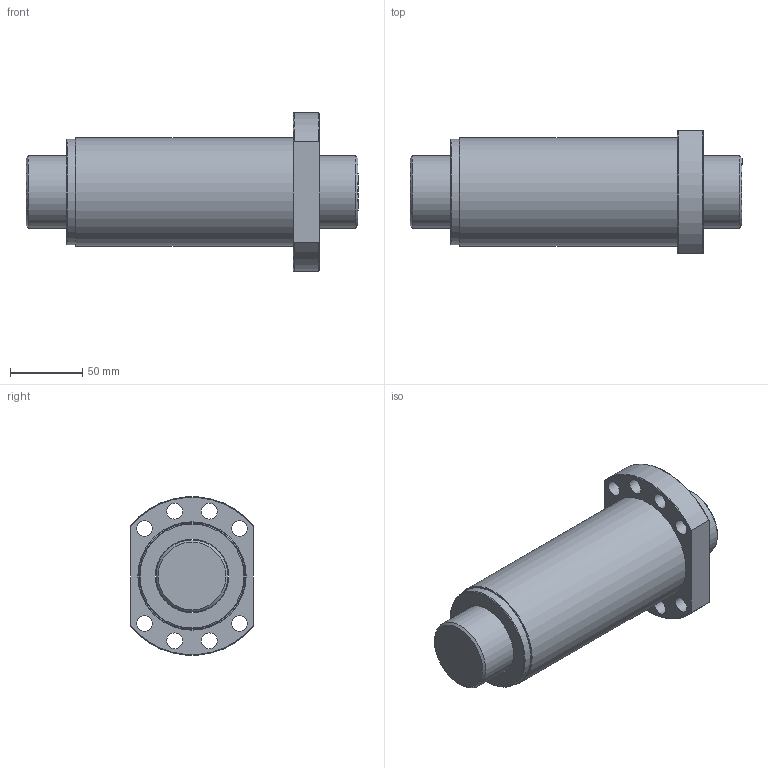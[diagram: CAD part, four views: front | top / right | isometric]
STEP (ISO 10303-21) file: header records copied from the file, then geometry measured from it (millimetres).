
FILE_DESCRIPTION(/* description */ (''),/* implementation_level */ '2;1');
FILE_NAME(/* name */ 'SFS5050-2.8',/* time_stamp */ '2007-10-26T13:03:20+08:00',/* author */ (''),/* organization */ (''),/* preprocessor_version */ 'ST-DEVELOPER v9',/* originating_system */ 'UGS - NX 3.0',/* authorisation */ '');
FILE_SCHEMA (('CONFIG_CONTROL_DESIGN'));
Length unit declared in the file: millimetre
Products named in the file (1): jaso15A4i312
Bounding box: 230 x 85 x 109.65 mm (x, y, z)
Volume: 920430 mm3; surface area: 137915.1 mm2
Topology: 4 solids, 4 shells, 39 faces, 90 edges, 61 vertices
Faces by surface type: cylinder 18, plane 12, torus 7, cone 2
Full cylindrical faces by diameter (mm): 11 x8, 50 x1, 51 x3, 73 x2, 75 x2
Entity records: 1208 total; most frequent: CARTESIAN_POINT 298, DIRECTION 178, ORIENTED_EDGE 122, AXIS2_PLACEMENT_3D 85, EDGE_LOOP 84, FACE_BOUND 64, EDGE_CURVE 61, VERTEX_POINT 53
